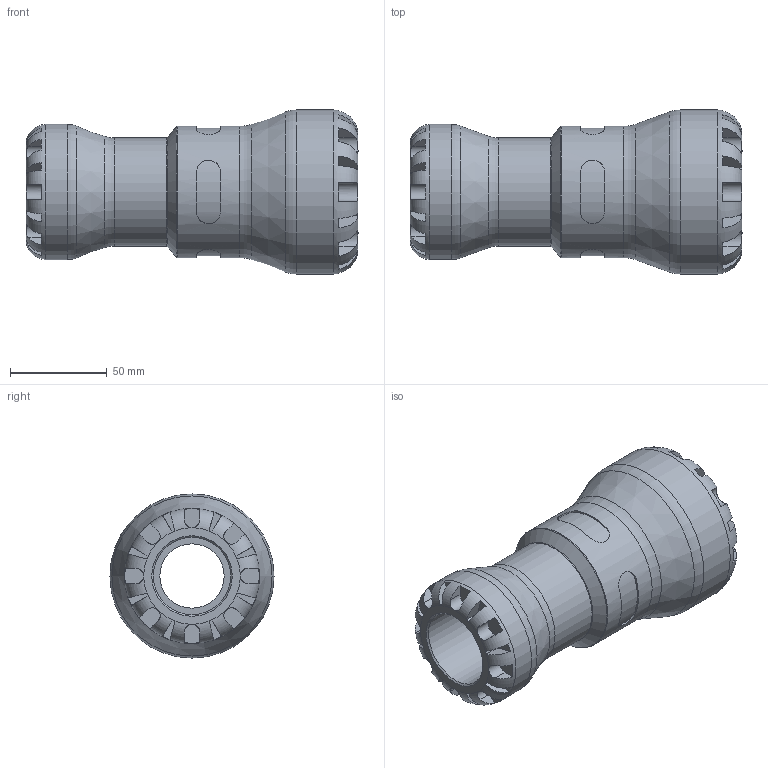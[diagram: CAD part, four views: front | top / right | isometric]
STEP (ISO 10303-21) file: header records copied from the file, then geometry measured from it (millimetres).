
FILE_DESCRIPTION(/* description */ ('PLASSON G-PLASS REDUCING COUPLING 50 x 40'),/* implementation_level */ '2;1');
FILE_NAME(/* name */ 'C:\Dropbox\KIMPROJECTS-Inventor 2019\99-16-3568-Processing\S1\151100\stp\151100050040.stp',/* time_stamp */ '2023-10-17T19:45:16+03:00',/* author */ ('KIM'),/* organization */ (''),/* preprocessor_version */ 'ST-DEVELOPER v17.2',/* originating_system */ 'Autodesk Inventor 2019',/* authorisation */ '');
FILE_SCHEMA (('AUTOMOTIVE_DESIGN { 1 0 10303 214 3 1 1 }'));
Length unit declared in the file: millimetre
Products named in the file (1): 151100050040
Bounding box: 172 x 85 x 85 mm (x, y, z)
Volume: 378682.1 mm3; surface area: 72695.2 mm2
Topology: 1 solids, 1 shells, 172 faces, 465 edges, 300 vertices
Faces by surface type: plane 108, cylinder 50, torus 8, cone 6
Full cylindrical faces by diameter (mm): 40 x1, 50 x1, 56 x1, 68 x1, 70 x1, 85 x1
Entity records: 6972 total; most frequent: CARTESIAN_POINT 2498, ORIENTED_EDGE 930, DIRECTION 895, EDGE_CURVE 465, AXIS2_PLACEMENT_3D 369, VERTEX_POINT 300, CIRCLE 196, EDGE_LOOP 179
